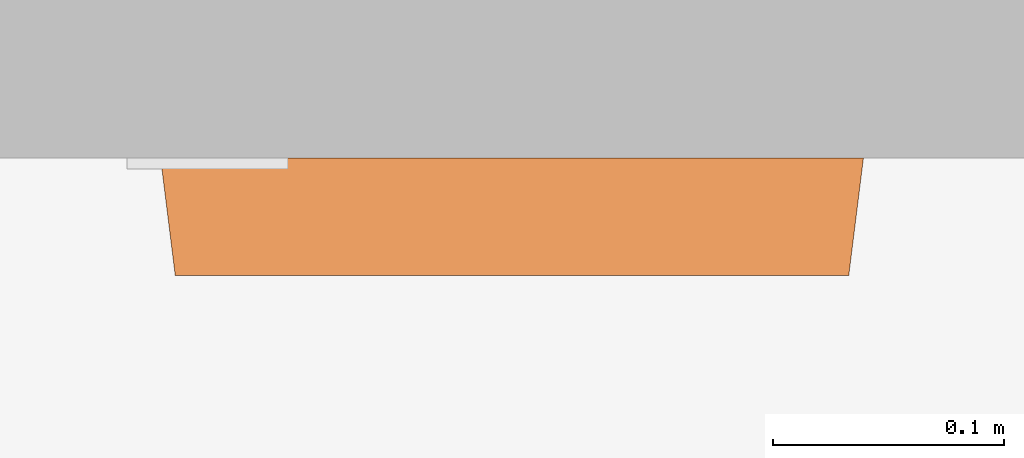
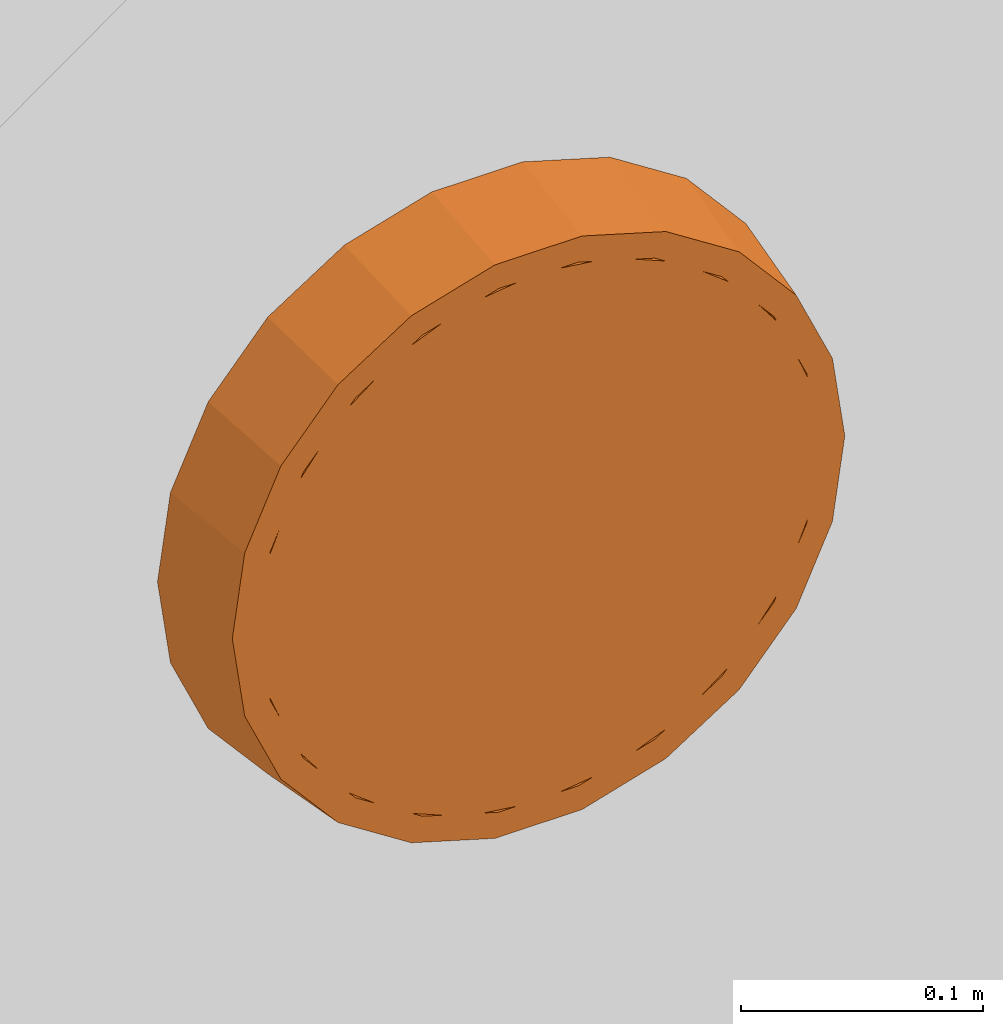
# One storey, part 20 of 20: 1 proxy.
"""IFC2X3 building model written with IfcOpenShell, lengths in feet."""

from ifc_helpers import new_model, entity, si_unit, converted_unit, derived_unit, direction, frame, origin, place, context, subcontext, project, spatial, faceted_brep, source, transform, mapped, type_object, type_shapes, element, save


model = new_model("IFC2X3")

# Units and contexts
model_context = context("Model", 3, precision=0.0001, world=origin(), true_north=direction((6.12303176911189e-17, 1.0)))
body_context = subcontext(model_context, "Body", "Model", "MODEL_VIEW")
ifc_project = project(units=[converted_unit("LENGTHUNIT", "FOOT", entity("IfcRatioMeasure", 0.3048), si_unit("LENGTHUNIT", "METRE"), dimensions=[1, 0, 0, 0, 0, 0, 0]), converted_unit("AREAUNIT", "SQUARE FOOT", entity("IfcRatioMeasure", 0.09290304), si_unit("AREAUNIT", "SQUARE_METRE"), dimensions=[2, 0, 0, 0, 0, 0, 0]), converted_unit("VOLUMEUNIT", "CUBIC FOOT", entity("IfcRatioMeasure", 0.028316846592), si_unit("VOLUMEUNIT", "CUBIC_METRE"), dimensions=[3, 0, 0, 0, 0, 0, 0]), converted_unit("PLANEANGLEUNIT", "DEGREE", entity("IfcRatioMeasure", 0.0174532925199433), si_unit("PLANEANGLEUNIT", "RADIAN"), dimensions=[0, 0, 0, 0, 0, 0, 0]), si_unit("MASSUNIT", "GRAM", prefix="KILO"), derived_unit("MASSDENSITYUNIT", [(si_unit("MASSUNIT", "GRAM", prefix="KILO"), 1), (si_unit("LENGTHUNIT", "METRE"), -3)]), si_unit("TIMEUNIT", "SECOND"), si_unit("FREQUENCYUNIT", "HERTZ"), si_unit("THERMODYNAMICTEMPERATUREUNIT", "DEGREE_CELSIUS"), derived_unit("THERMALTRANSMITTANCEUNIT", [(si_unit("MASSUNIT", "GRAM", prefix="KILO"), 1), (si_unit("THERMODYNAMICTEMPERATUREUNIT", "KELVIN"), -1), (si_unit("TIMEUNIT", "SECOND"), -3)]), derived_unit("VOLUMETRICFLOWRATEUNIT", [(si_unit("LENGTHUNIT", "METRE"), 3), (si_unit("TIMEUNIT", "SECOND"), -1)]), si_unit("ELECTRICCURRENTUNIT", "AMPERE"), si_unit("ELECTRICVOLTAGEUNIT", "VOLT"), si_unit("POWERUNIT", "WATT"), si_unit("FORCEUNIT", "NEWTON"), si_unit("ILLUMINANCEUNIT", "LUX"), si_unit("LUMINOUSFLUXUNIT", "LUMEN"), si_unit("LUMINOUSINTENSITYUNIT", "CANDELA"), derived_unit("USERDEFINED", [(si_unit("MASSUNIT", "GRAM", prefix="KILO"), -1), (si_unit("LENGTHUNIT", "METRE"), -2), (si_unit("TIMEUNIT", "SECOND"), 3), (si_unit("LUMINOUSFLUXUNIT", "LUMEN"), 1)]), derived_unit("LINEARVELOCITYUNIT", [(si_unit("LENGTHUNIT", "METRE"), 1), (si_unit("TIMEUNIT", "SECOND"), -1)]), si_unit("PRESSUREUNIT", "PASCAL"), derived_unit("USERDEFINED", [(si_unit("LENGTHUNIT", "METRE"), -2), (si_unit("MASSUNIT", "GRAM", prefix="KILO"), 1), (si_unit("TIMEUNIT", "SECOND"), -2)])], contexts=[model_context])

# Site, building, storey, space
site_placement = place(None, origin())
site = spatial("IfcSite", under=ifc_project, at=site_placement, Name="Default", CompositionType="ELEMENT")
building_placement = place(site_placement, origin())
building = spatial("IfcBuilding", under=site, at=building_placement, Name="OUTPATIENT / PACT CLINIC (Ch. 265)", CompositionType="ELEMENT")
storey_placement = place(building_placement, origin())
storey = spatial("IfcBuildingStorey", under=building, at=storey_placement, Name="DATUM", CompositionType="ELEMENT", Elevation=0.0)
space_placement = place(storey_placement, origin())
space = spatial("IfcSpace", under=storey, at=space_placement, Name="RCP03", CompositionType="ELEMENT", InteriorOrExteriorSpace="INTERNAL")

# Proxy
building_element_proxy_type = type_object("IfcBuildingElementProxyType", Name="F3200 - Clock, Battery, 12in Dia", PredefinedType="NOTDEFINED")
shared_shape = source(origin(), body_context, "Body", "Brep", [
    faceted_brep([(0.0527623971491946, -0.166666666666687, -0.0087350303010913), (0.143371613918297, -0.166666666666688, 0.0607918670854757), (0.212898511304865, -0.16666666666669, 0.151401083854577), (0.256604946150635, -0.166666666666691, 0.256917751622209), (0.271512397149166, -0.166666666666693, 0.370151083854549), (0.256604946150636, -0.166666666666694, 0.483384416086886), (0.212898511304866, -0.166666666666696, 0.588901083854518), (0.143371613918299, -0.166666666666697, 0.67951030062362), (0.052762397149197, -0.166666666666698, 0.749037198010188), (-0.0527542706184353, -0.166666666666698, 0.792743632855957), (-0.165987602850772, -0.166666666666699, 0.807651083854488), (-0.279220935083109, -0.166666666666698, 0.792743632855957), (-0.384737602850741, -0.166666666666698, 0.749037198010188), (-0.475346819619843, -0.166666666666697, 0.679510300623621), (-0.544873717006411, -0.166666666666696, 0.588901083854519), (-0.588580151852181, -0.166666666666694, 0.483384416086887), (-0.603487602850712, -0.166666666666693, 0.37015108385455), (-0.588580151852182, -0.166666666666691, 0.256917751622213), (-0.544873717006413, -0.16666666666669, 0.151401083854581), (-0.475346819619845, -0.166666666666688, 0.0607918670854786), (-0.384737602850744, -0.166666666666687, -0.0087350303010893), (-0.279220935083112, -0.166666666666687, -0.052441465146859), (-0.165987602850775, -0.166666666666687, -0.0673489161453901), (-0.0527542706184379, -0.166666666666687, -0.0524414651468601), (0.256604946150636, -0.145833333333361, 0.483384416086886), (0.271512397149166, -0.145833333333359, 0.370151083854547), (0.256604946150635, -0.145833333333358, 0.256917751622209), (0.212898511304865, -0.145833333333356, 0.151401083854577), (0.143371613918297, -0.145833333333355, 0.0607918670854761), (0.0527623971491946, -0.145833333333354, -0.00873503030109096), (-0.0527542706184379, -0.145833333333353, -0.0524414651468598), (-0.165987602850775, -0.145833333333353, -0.0673489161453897), (-0.279220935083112, -0.145833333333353, -0.0524414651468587), (-0.384737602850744, -0.145833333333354, -0.00873503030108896), (-0.475346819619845, -0.145833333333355, 0.060791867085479), (-0.544873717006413, -0.145833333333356, 0.151401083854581), (-0.588580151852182, -0.145833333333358, 0.256917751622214), (-0.603487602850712, -0.145833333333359, 0.37015108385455), (-0.588580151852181, -0.145833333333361, 0.483384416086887), (-0.544873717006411, -0.145833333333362, 0.588901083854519), (-0.475346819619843, -0.145833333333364, 0.679510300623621), (-0.384737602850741, -0.145833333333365, 0.749037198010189), (-0.279220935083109, -0.145833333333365, 0.792743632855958), (-0.165987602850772, -0.145833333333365, 0.807651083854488), (-0.0527542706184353, -0.145833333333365, 0.792743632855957), (0.052762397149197, -0.145833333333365, 0.749037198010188), (0.143371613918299, -0.145833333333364, 0.67951030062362), (0.212898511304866, -0.145833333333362, 0.588901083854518)], [[[0, 1, 2, 3, 4, 5, 6, 7, 8, 9, 10, 11, 12, 13, 14, 15, 16, 17, 18, 19, 20, 21, 22, 23]], [[24, 25, 26, 27, 28, 29, 30, 31, 32, 33, 34, 35, 36, 37, 38, 39, 40, 41, 42, 43, 44, 45, 46, 47]], [[36, 17, 16, 37]], [[35, 18, 17, 36]], [[20, 19, 34, 33]], [[35, 34, 19, 18]], [[21, 20, 33, 32]], [[22, 21, 32, 31]], [[30, 23, 22, 31]], [[29, 0, 23, 30]], [[2, 1, 28, 27]], [[29, 28, 1, 0]], [[3, 2, 27, 26]], [[4, 3, 26, 25]], [[24, 5, 4, 25]], [[47, 6, 5, 24]], [[8, 7, 46, 45]], [[47, 46, 7, 6]], [[9, 8, 45, 44]], [[10, 9, 44, 43]], [[11, 10, 43, 42]], [[12, 11, 42, 41]], [[14, 39, 38, 15]], [[15, 38, 37, 16]], [[12, 41, 40, 13]], [[40, 39, 14, 13]]]),
    faceted_brep([(-0.493417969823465, 0.0, -0.00772370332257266), (-0.586614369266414, 0.0, 0.0998306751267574), (-0.165987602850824, 0.0, 0.370151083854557), (-0.373695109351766, 0.0, -0.0846649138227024), (-0.645734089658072, 0.0, 0.229284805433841), (-0.665987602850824, 0.0, 0.370151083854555), (-0.645734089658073, 0.0, 0.51101736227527), (-0.586614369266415, 0.0, 0.640471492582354), (-0.493417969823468, 0.0, 0.748025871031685), (-0.373695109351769, 0.0, 0.824967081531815), (-0.237145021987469, 0.0, 0.865061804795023), (-0.0948301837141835, 0.0, 0.865061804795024), (0.0417199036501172, 0.0, 0.824967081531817), (0.161442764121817, 0.0, 0.748025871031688), (0.254639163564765, 0.0, 0.640471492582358), (0.313758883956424, 0.0, 0.511017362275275), (0.334012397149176, 0.0, 0.370151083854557), (0.313758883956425, 0.0, 0.229284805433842), (0.254639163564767, 0.0, 0.0998306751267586), (0.161442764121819, 0.0, -0.00772370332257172), (0.0417199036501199, 0.0, -0.0846649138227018), (-0.0948301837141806, 0.0, -0.124759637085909), (-0.237145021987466, 0.0, -0.124759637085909), (-0.165987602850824, -0.145833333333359, 0.370151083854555), (-0.534036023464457, -0.145833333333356, 0.133620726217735), (-0.452489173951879, -0.145833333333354, 0.0395106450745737), (-0.585765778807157, -0.145833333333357, 0.246893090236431), (-0.347731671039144, -0.145833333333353, -0.0278129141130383), (-0.228250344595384, -0.145833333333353, -0.0628957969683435), (-0.603487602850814, -0.145833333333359, 0.370151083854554), (-0.103724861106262, -0.145833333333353, -0.0628957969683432), (0.0157564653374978, -0.145833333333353, -0.0278129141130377), (0.120513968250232, -0.145833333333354, 0.0395106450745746), (0.20206081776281, -0.145833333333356, 0.133620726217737), (0.253790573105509, -0.145833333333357, 0.246893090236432), (0.271512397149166, -0.145833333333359, 0.370151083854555), (-0.585765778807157, -0.145833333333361, 0.493409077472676), (-0.534036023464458, -0.145833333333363, 0.606681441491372), (-0.452489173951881, -0.145833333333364, 0.700791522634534), (-0.347731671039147, -0.145833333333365, 0.768115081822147), (-0.228250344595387, -0.145833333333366, 0.803197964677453), (0.253790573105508, -0.145833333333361, 0.49340907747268), (0.202060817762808, -0.145833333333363, 0.606681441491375), (0.12051396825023, -0.145833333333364, 0.700791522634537), (0.0157564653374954, -0.145833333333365, 0.768115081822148), (-0.103724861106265, -0.145833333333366, 0.803197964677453), (0.253790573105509, -0.166666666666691, 0.246893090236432), (0.271512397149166, -0.166666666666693, 0.370151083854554), (0.20206081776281, -0.166666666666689, 0.133620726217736), (-0.103724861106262, -0.166666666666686, -0.0628957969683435), (0.0157564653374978, -0.166666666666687, -0.0278129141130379), (0.120513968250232, -0.166666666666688, 0.0395106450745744), (-0.228250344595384, -0.166666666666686, -0.0628957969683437), (-0.452489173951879, -0.166666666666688, 0.0395106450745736), (-0.347731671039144, -0.166666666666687, -0.0278129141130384), (-0.603487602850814, -0.166666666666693, 0.370151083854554), (-0.585765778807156, -0.166666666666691, 0.246893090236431), (-0.534036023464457, -0.166666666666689, 0.133620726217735), (-0.585765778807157, -0.166666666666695, 0.493409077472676), (-0.534036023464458, -0.166666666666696, 0.606681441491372), (-0.347731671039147, -0.166666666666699, 0.768115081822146), (-0.452489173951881, -0.166666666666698, 0.700791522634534), (-0.228250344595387, -0.166666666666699, 0.803197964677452), (-0.103724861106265, -0.166666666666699, 0.803197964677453), (0.0157564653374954, -0.166666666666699, 0.768115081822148), (0.12051396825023, -0.166666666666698, 0.700791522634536), (0.253790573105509, -0.166666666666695, 0.493409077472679), (0.202060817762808, -0.166666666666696, 0.606681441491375), (-0.62574465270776, -0.166666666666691, 0.235154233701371), (-0.64515426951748, -0.166666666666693, 0.370151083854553), (-0.569088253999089, -0.166666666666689, 0.111094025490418), (-0.479775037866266, -0.166666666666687, 0.00802107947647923), (-0.365040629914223, -0.166666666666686, -0.0657142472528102), (-0.234180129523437, -0.166666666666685, -0.104138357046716), (-0.0977950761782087, -0.166666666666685, -0.104138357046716), (0.0330654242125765, -0.166666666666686, -0.0657142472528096), (0.147799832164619, -0.166666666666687, 0.00802107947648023), (0.237113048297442, -0.166666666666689, 0.11109402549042), (0.293769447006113, -0.166666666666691, 0.235154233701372), (0.313179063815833, -0.166666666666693, 0.370151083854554), (0.293769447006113, -0.166666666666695, 0.50514793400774), (0.237113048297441, -0.166666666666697, 0.629208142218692), (0.147799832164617, -0.166666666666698, 0.732281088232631), (0.0330654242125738, -0.1666666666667, 0.80601641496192), (-0.0977950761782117, -0.1666666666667, 0.844440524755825), (-0.23418012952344, -0.1666666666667, 0.844440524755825), (-0.365040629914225, -0.1666666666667, 0.806016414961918), (-0.479775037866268, -0.166666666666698, 0.732281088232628), (-0.569088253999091, -0.166666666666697, 0.629208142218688), (-0.625744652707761, -0.166666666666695, 0.505147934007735)], [[[0, 1, 2]], [[0, 2, 3]], [[4, 2, 1]], [[2, 4, 5]], [[5, 6, 2]], [[2, 6, 7]], [[2, 7, 8]], [[2, 8, 9]], [[9, 10, 2]], [[11, 2, 10]], [[2, 11, 12]], [[2, 12, 13]], [[14, 2, 13]], [[2, 14, 15]], [[15, 16, 2]], [[2, 16, 17]], [[2, 17, 18]], [[18, 19, 2]], [[19, 20, 2]], [[21, 2, 20]], [[2, 21, 22]], [[22, 3, 2]], [[23, 24, 25]], [[24, 23, 26]], [[27, 23, 25]], [[23, 27, 28]], [[29, 26, 23]], [[28, 30, 23]], [[31, 23, 30]], [[23, 31, 32]], [[23, 32, 33]], [[33, 34, 23]], [[34, 35, 23]], [[23, 36, 29]], [[37, 36, 23]], [[38, 37, 23]], [[39, 38, 23]], [[23, 40, 39]], [[23, 35, 41]], [[41, 42, 23]], [[43, 23, 42]], [[43, 44, 23]], [[44, 45, 23]], [[40, 23, 45]], [[46, 47, 35, 34]], [[46, 34, 33, 48]], [[31, 30, 49, 50]], [[32, 31, 50, 51]], [[51, 48, 33, 32]], [[30, 28, 52, 49]], [[27, 25, 53, 54]], [[28, 27, 54, 52]], [[29, 55, 56, 26]], [[26, 56, 57, 24]], [[24, 57, 53, 25]], [[55, 29, 36, 58]], [[58, 36, 37, 59]], [[60, 61, 38, 39]], [[59, 37, 38, 61]], [[39, 40, 62, 60]], [[40, 45, 63, 62]], [[64, 63, 45, 44]], [[64, 44, 43, 65]], [[41, 35, 47, 66]], [[42, 41, 66, 67]], [[67, 65, 43, 42]], [[68, 55, 69]], [[56, 55, 68]], [[68, 70, 56]], [[70, 57, 56]], [[71, 57, 70]], [[57, 71, 53]], [[72, 53, 71]], [[54, 53, 72]], [[72, 73, 54]], [[73, 52, 54]], [[49, 52, 73]], [[73, 74, 49]], [[74, 50, 49]], [[75, 50, 74]], [[50, 75, 51]], [[76, 51, 75]], [[48, 51, 76]], [[76, 77, 48]], [[77, 46, 48]], [[78, 46, 77]], [[46, 78, 47]], [[78, 79, 47]], [[79, 80, 47]], [[66, 47, 80]], [[80, 81, 66]], [[66, 81, 67]], [[82, 67, 81]], [[67, 82, 65]], [[65, 82, 83]], [[64, 65, 83]], [[83, 84, 64]], [[64, 84, 63]], [[85, 63, 84]], [[63, 85, 62]], [[62, 85, 60]], [[86, 60, 85]], [[60, 86, 61]], [[61, 86, 87]], [[59, 61, 87]], [[87, 88, 59]], [[59, 88, 58]], [[89, 58, 88]], [[55, 89, 69]], [[58, 89, 55]], [[78, 17, 16, 79]], [[77, 18, 17, 78]], [[19, 76, 75, 20]], [[77, 76, 19, 18]], [[20, 75, 74, 21]], [[74, 73, 22, 21]], [[22, 73, 72, 3]], [[0, 3, 72, 71]], [[4, 1, 70, 68]], [[70, 1, 0, 71]], [[5, 4, 68, 69]], [[89, 6, 5, 69]], [[88, 7, 6, 89]], [[8, 87, 86, 9]], [[88, 87, 8, 7]], [[9, 86, 85, 10]], [[85, 84, 11, 10]], [[83, 12, 11, 84]], [[82, 13, 12, 83]], [[14, 81, 80, 15]], [[82, 81, 14, 13]], [[15, 80, 79, 16]]]),
])
type_shapes(building_element_proxy_type, [shared_shape])
proxy_placement = place(space_placement, frame((61.8266134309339, -854.924839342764, 5.5)))
element("IfcBuildingElementProxy", 1, at=proxy_placement, inside=space, type_object=building_element_proxy_type, Name="F3200 - Clock, Battery, 12in Dia:F3200 - Clock, Battery, 12in Dia", ObjectType="F3200 - Clock, Battery, 12in Dia", context=body_context, shape_type="MappedRepresentation", body=[
    mapped(shared_shape, transform((0.0, 0.0, 0.0), scale=1.0)),
])

save(model, "model.ifc")
